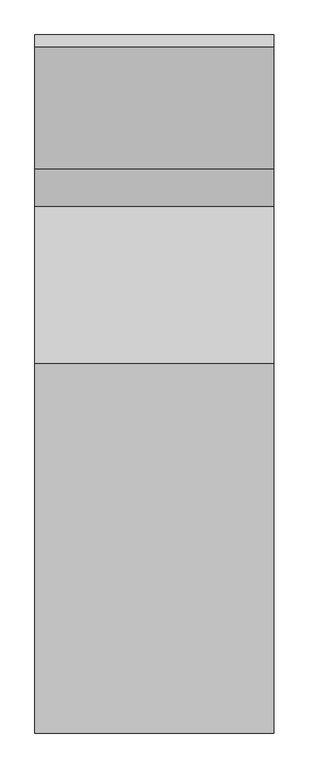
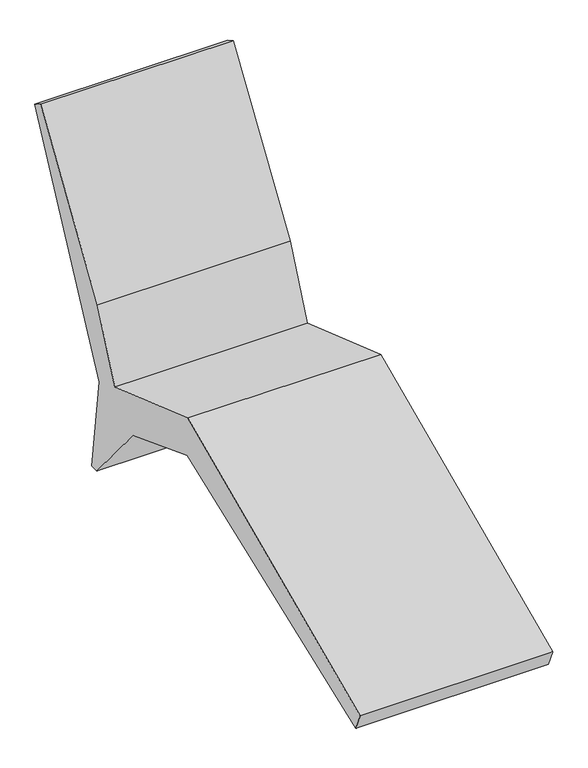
"""IFC4 building model written with IfcOpenShell, lengths in millimetres: geographic element geometry, Enscape AssetDefinition - Sunbed 002 : Enscape AssetDefinition - Sunbed 002."""

from ifc_helpers import new_model, si_unit, origin, place, context, project, spatial, triangles, source, transform, mapped, element, save


def geographic_element_db0a6fd4(model_context):
    return source(origin(), model_context, "Body", "Tessellation", [
        triangles([(330.7798096, 105.2493079, 521.2041601), (-330.8439772, 105.2493079, 521.2041601), (-330.8439772, -918.9664364, 60.9255281), (-330.8439772, 108.4461604, 384.6349889), (330.7798096, -918.9664364, 60.9255281), (330.7798096, -892.4774282, -0.152374), (-330.8439772, 541.0057858, 370.3619865), (-330.8439772, -892.4774282, -0.152374), (330.7798096, 108.4461604, 384.6349889), (-330.8439772, 429.5071409, 261.6210949), (330.7798096, 429.5071409, 261.6210949), (-330.8439772, 648.094598, -0.152374), (330.7798096, 648.094598, -0.152374), (330.7798096, 541.0057858, 370.3619865), (330.7798096, 643.62365, 605.8078259), (330.7798096, 678.575441, -0.152374), (-330.8439772, 678.575441, -0.152374), (330.7798096, 631.7535896, 333.9796869), (-330.8439772, 1015.6316843, 1110.0514297), (-330.8439772, 631.7535896, 333.9796869), (330.7798096, 1015.6316843, 1110.0514297), (-330.8439772, 981.4638571, 1129.8659906), (330.7798096, 981.4638571, 1129.8659906), (-330.8439772, 643.62365, 605.8078259)], [[15, 24, 7], [24, 15, 23], [23, 22, 24], [21, 23, 15], [24, 22, 19], [23, 21, 19], [19, 22, 23], [24, 19, 20], [7, 24, 20], [7, 20, 17], [18, 21, 15], [18, 20, 19], [19, 21, 18], [16, 17, 20], [20, 18, 16], [12, 17, 16], [12, 7, 17], [16, 13, 12], [13, 16, 14], [18, 15, 14], [14, 16, 18], [7, 14, 15], [11, 13, 14], [12, 13, 11], [9, 11, 14], [7, 12, 10], [11, 10, 12], [10, 11, 9], [9, 4, 10], [8, 4, 9], [9, 6, 8], [14, 1, 9], [1, 14, 7], [6, 9, 1], [8, 6, 5], [1, 5, 6], [5, 3, 8], [4, 8, 3], [10, 4, 2], [2, 7, 10], [7, 2, 1], [3, 2, 4], [5, 1, 2], [2, 3, 5]]),
    ])


if __name__ == "__main__":
    model = new_model("IFC4")
    model_context = context("Model", 3, world=origin())
    ifc_project = project(units=[si_unit("LENGTHUNIT", "METRE", prefix="MILLI")], contexts=[model_context])
    site = spatial("IfcSite", under=ifc_project)
    building = spatial("IfcBuilding", under=site)
    placement = place(None, origin())
    geographic_element_shape = geographic_element_db0a6fd4(model_context)
    element("IfcGeographicElement", 1, ObjectType="Enscape AssetDefinition - Sunbed 002 : Enscape AssetDefinition - Sunbed 002", at=placement, inside=building, context=model_context, shape_type="MappedRepresentation", body=[
        mapped(geographic_element_shape, transform((0.0, 0.0, 0.0), x_axis=(1.0, 0.0, 0.0), y_axis=(0.0, 1.0, 0.0), z_axis=(0.0, 0.0, 1.0))),
    ])
    save(model, "model.ifc")
